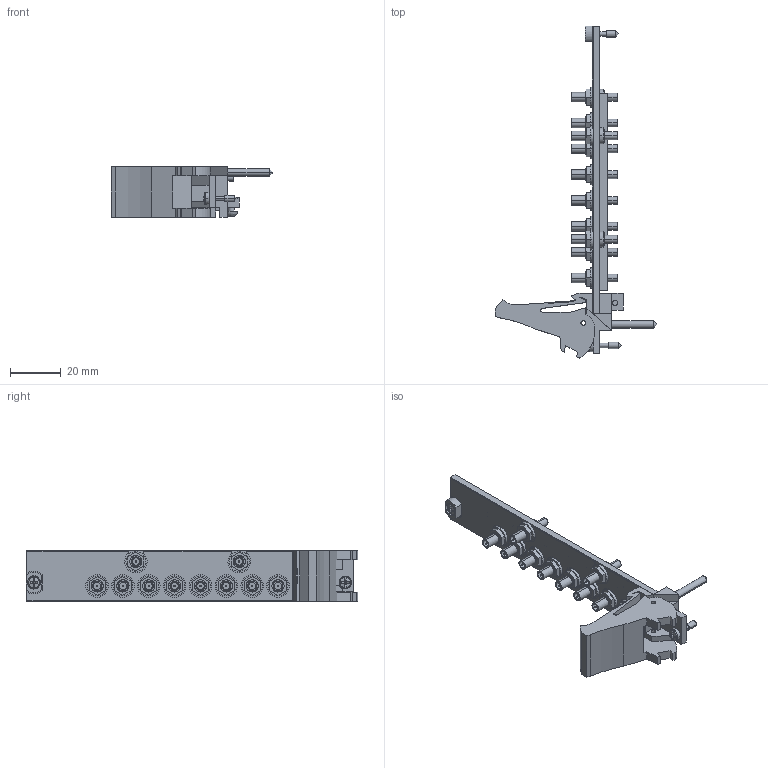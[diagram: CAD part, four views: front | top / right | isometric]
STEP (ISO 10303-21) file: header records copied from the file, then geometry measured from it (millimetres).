
FILE_DESCRIPTION((''),'2;1');
FILE_NAME('CU_PXI-2556','2009-10-05T',('jjorden'),(''),'PRO/ENGINEER BY PARAMETRIC TECHNOLOGY CORPORATION, 2006080','PRO/ENGINEER BY PARAMETRIC TECHNOLOGY CORPORATION, 2006080','');
FILE_SCHEMA(('CONFIG_CONTROL_DESIGN'));
Length unit declared in the file: inch
Products named in the file (1): CU_PXI-2556
Bounding box: 63.53 x 130.5 x 20.02 mm (x, y, z)
Volume: 16963.2 mm3; surface area: 17293.1 mm2
Topology: 1 solids, 1 shells, 739 faces, 1702 edges, 1098 vertices
Faces by surface type: plane 423, cylinder 262, cone 34, sphere 8, torus 6, bspline 6
Entity records: 21399 total; most frequent: CARTESIAN_POINT 4051, DIRECTION 3747, ORIENTED_EDGE 3388, EDGE_CURVE 1694, AXIS2_PLACEMENT_3D 1351, VERTEX_POINT 1117, VECTOR 1045, LINE 1045
